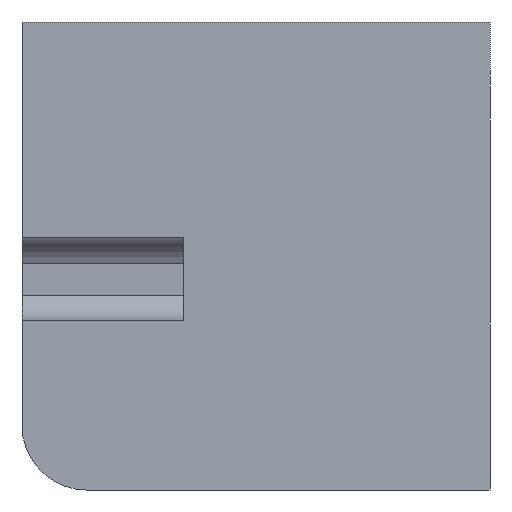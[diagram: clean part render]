
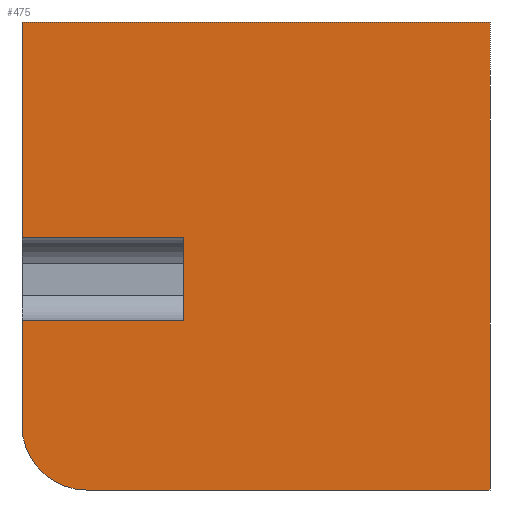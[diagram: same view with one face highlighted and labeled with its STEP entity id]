
A CAD part, left-side view. The second image highlights one B-rep face of the part: STEP entity #475.
In plain terms, the highlighted planar face has unit normal (-1, 0, 0).
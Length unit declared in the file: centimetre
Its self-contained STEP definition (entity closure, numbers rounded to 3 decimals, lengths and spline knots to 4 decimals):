
#8 = AXIS2_PLACEMENT_3D ( 'NONE', #164, #1113, #1236 ) ;
#12 = ORIENTED_EDGE ( 'NONE', *, *, #1535, .F. ) ;
#61 = ORIENTED_EDGE ( 'NONE', *, *, #1303, .T. ) ;
#71 = VERTEX_POINT ( 'NONE', #1449 ) ;
#77 = VECTOR ( 'NONE', #1483, 100. ) ;
#86 = EDGE_CURVE ( 'NONE', #1470, #645, #115, .T. ) ;
#94 = EDGE_CURVE ( 'NONE', #935, #840, #1433, .T. ) ;
#115 = LINE ( 'NONE', #591, #837 ) ;
#129 = DIRECTION ( 'NONE',  ( 0., 0., -1. ) ) ;
#142 = EDGE_CURVE ( 'NONE', #1338, #71, #605, .T. ) ;
#164 = CARTESIAN_POINT ( 'NONE',  ( 0., 862.4186, 137.5814 ) ) ;
#225 = DIRECTION ( 'NONE',  ( 0., 0., -1. ) ) ;
#260 = FACE_OUTER_BOUND ( 'NONE', #751, .T. ) ;
#274 = VECTOR ( 'NONE', #868, 100. ) ;
#294 = DIRECTION ( 'NONE',  ( 0., 0., -1. ) ) ;
#300 = VECTOR ( 'NONE', #1314, 100. ) ;
#318 = CARTESIAN_POINT ( 'NONE',  ( 0., 1000., 0. ) ) ;
#356 = VECTOR ( 'NONE', #1425, 100. ) ;
#371 = ORIENTED_EDGE ( 'NONE', *, *, #700, .T. ) ;
#388 = DIRECTION ( 'NONE',  ( 1., 0., 0. ) ) ;
#404 = CARTESIAN_POINT ( 'NONE',  ( 0., 862.4186, 0. ) ) ;
#431 = ORIENTED_EDGE ( 'NONE', *, *, #86, .T. ) ;
#468 = CARTESIAN_POINT ( 'NONE',  ( 0., 1000., 1000. ) ) ;
#475 = ADVANCED_FACE ( 'NONE', ( #260 ), #1214, .F. ) ;
#520 = CARTESIAN_POINT ( 'NONE',  ( 0., 1000., 1000. ) ) ;
#522 = CARTESIAN_POINT ( 'NONE',  ( 0., 0., 1000. ) ) ;
#560 = ORIENTED_EDGE ( 'NONE', *, *, #142, .F. ) ;
#589 = CARTESIAN_POINT ( 'NONE',  ( 0., 1000., 362.1485 ) ) ;
#591 = CARTESIAN_POINT ( 'NONE',  ( 0., 654.454, 1000. ) ) ;
#596 = VECTOR ( 'NONE', #1280, 100. ) ;
#605 = LINE ( 'NONE', #1330, #356 ) ;
#624 = VERTEX_POINT ( 'NONE', #404 ) ;
#645 = VERTEX_POINT ( 'NONE', #754 ) ;
#700 = EDGE_CURVE ( 'NONE', #1338, #1302, #1506, .T. ) ;
#715 = ORIENTED_EDGE ( 'NONE', *, *, #987, .T. ) ;
#751 = EDGE_LOOP ( 'NONE', ( #431, #61, #834, #715, #1044, #12, #560, #371, #1371 ) ) ;
#754 = CARTESIAN_POINT ( 'NONE',  ( 0., 654.454, 362.1485 ) ) ;
#775 = LINE ( 'NONE', #522, #274 ) ;
#833 = LINE ( 'NONE', #968, #300 ) ;
#834 = ORIENTED_EDGE ( 'NONE', *, *, #94, .T. ) ;
#835 = EDGE_CURVE ( 'NONE', #624, #1467, #1164, .T. ) ;
#837 = VECTOR ( 'NONE', #225, 100. ) ;
#840 = VERTEX_POINT ( 'NONE', #930 ) ;
#868 = DIRECTION ( 'NONE',  ( 0., 0., -1. ) ) ;
#885 = CARTESIAN_POINT ( 'NONE',  ( 0., 654.454, 538.9086 ) ) ;
#930 = CARTESIAN_POINT ( 'NONE',  ( 0., 1000., 137.5814 ) ) ;
#935 = VERTEX_POINT ( 'NONE', #589 ) ;
#968 = CARTESIAN_POINT ( 'NONE',  ( 0., 654.454, 362.1485 ) ) ;
#987 = EDGE_CURVE ( 'NONE', #840, #624, #1158, .T. ) ;
#1044 = ORIENTED_EDGE ( 'NONE', *, *, #835, .T. ) ;
#1060 = VECTOR ( 'NONE', #294, 100. ) ;
#1076 = CARTESIAN_POINT ( 'NONE',  ( 0., 1000., 1000. ) ) ;
#1091 = CARTESIAN_POINT ( 'NONE',  ( 0., 1000., 538.9086 ) ) ;
#1111 = CARTESIAN_POINT ( 'NONE',  ( 0., 654.454, 538.9086 ) ) ;
#1113 = DIRECTION ( 'NONE',  ( -1., 0., 0. ) ) ;
#1130 = VECTOR ( 'NONE', #1299, 100. ) ;
#1158 = CIRCLE ( 'NONE', #8, 137.5814 ) ;
#1164 = LINE ( 'NONE', #318, #596 ) ;
#1199 = CARTESIAN_POINT ( 'NONE',  ( 0., 1000., 1000. ) ) ;
#1214 = PLANE ( 'NONE',  #1523 ) ;
#1236 = DIRECTION ( 'NONE',  ( 0., 0., -1. ) ) ;
#1280 = DIRECTION ( 'NONE',  ( 0., -1., 0. ) ) ;
#1299 = DIRECTION ( 'NONE',  ( 0., 0., -1. ) ) ;
#1302 = VERTEX_POINT ( 'NONE', #1091 ) ;
#1303 = EDGE_CURVE ( 'NONE', #645, #935, #833, .T. ) ;
#1314 = DIRECTION ( 'NONE',  ( 0., 1., 0. ) ) ;
#1330 = CARTESIAN_POINT ( 'NONE',  ( 0., 1000., 1000. ) ) ;
#1338 = VERTEX_POINT ( 'NONE', #468 ) ;
#1359 = CARTESIAN_POINT ( 'NONE',  ( 0., 0., 0. ) ) ;
#1371 = ORIENTED_EDGE ( 'NONE', *, *, #1519, .F. ) ;
#1425 = DIRECTION ( 'NONE',  ( 0., -1., 0. ) ) ;
#1433 = LINE ( 'NONE', #1076, #1130 ) ;
#1449 = CARTESIAN_POINT ( 'NONE',  ( 0., 0., 1000. ) ) ;
#1467 = VERTEX_POINT ( 'NONE', #1359 ) ;
#1470 = VERTEX_POINT ( 'NONE', #1111 ) ;
#1475 = LINE ( 'NONE', #885, #77 ) ;
#1483 = DIRECTION ( 'NONE',  ( 0., 1., 0. ) ) ;
#1506 = LINE ( 'NONE', #520, #1060 ) ;
#1519 = EDGE_CURVE ( 'NONE', #1470, #1302, #1475, .T. ) ;
#1523 = AXIS2_PLACEMENT_3D ( 'NONE', #1199, #388, #129 ) ;
#1535 = EDGE_CURVE ( 'NONE', #71, #1467, #775, .T. ) ;
